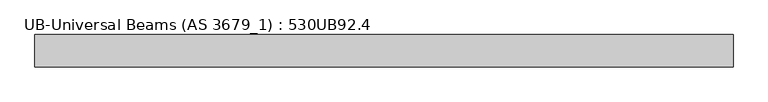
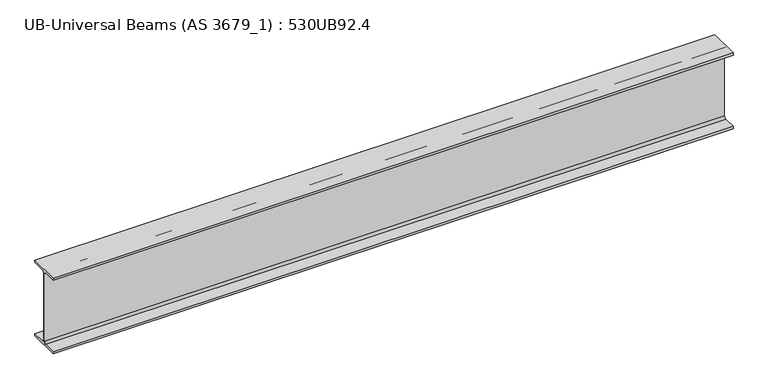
"""IFC4 building model written with IfcOpenShell, lengths in millimetres: beam geometry, UB-Universal Beams (AS 3679_1) : 530UB92.4."""

from ifc_helpers import new_model, si_unit, point, frame, frame_2d, origin, place, context, project, spatial, polyline, circle_curve, trimmed, segment, composite_curve, outline, extrude, source, transform, mapped, element, save


def ub_universal_beams_as_3679_1_530ub92_4_67ad7e9f(model_context):
    return source(origin(), model_context, "Body", "SweptSolid", [
        extrude(outline(composite_curve([segment(polyline([(104.5, -250.9), (104.5, -266.5), (-104.5, -266.5), (-104.5, -250.9), (-19.1, -250.9)]), True, "CONTINUOUS"), segment(trimmed(circle_curve(frame_2d((-19.1, -236.9)), 14.0), [point((-19.1, -250.9))], [point((-5.1, -236.9))], True, "CARTESIAN"), True, "CONTINUOUS"), segment(polyline([(-5.1, -236.9), (-5.1, 236.9)]), True, "CONTINUOUS"), segment(trimmed(circle_curve(frame_2d((-19.1, 236.9)), 14.0), [point((-5.1, 236.9))], [point((-19.1, 250.9))], True, "CARTESIAN"), True, "CONTINUOUS"), segment(polyline([(-19.1, 250.9), (-104.5, 250.9), (-104.5, 266.5), (104.5, 266.5), (104.5, 250.9), (19.1, 250.9)]), True, "CONTINUOUS"), segment(trimmed(circle_curve(frame_2d((19.1, 236.9)), 14.0), [point((19.1, 250.9))], [point((5.1, 236.9))], True, "CARTESIAN"), True, "CONTINUOUS"), segment(polyline([(5.1, 236.9), (5.1, -236.9)]), True, "CONTINUOUS"), segment(trimmed(circle_curve(frame_2d((19.1, -236.9)), 14.0), [point((5.1, -236.9))], [point((19.1, -250.9))], True, "CARTESIAN"), True, "CONTINUOUS"), segment(polyline([(19.1, -250.9), (104.5, -250.9)]), True, "CONTINUOUS")], self_intersect=False)), frame((-2263.3, 0.0, 0.0), z_axis=(1.0, 0.0, 0.0), x_axis=(0.0, 1.0, 0.0)), (0.0, 0.0, 1.0), 4526.6),
    ])


if __name__ == "__main__":
    model = new_model("IFC4")
    model_context = context("Model", 3, world=origin())
    ifc_project = project(units=[si_unit("LENGTHUNIT", "METRE", prefix="MILLI")], contexts=[model_context])
    site = spatial("IfcSite", under=ifc_project)
    building = spatial("IfcBuilding", under=site)
    placement = place(None, origin())
    ub_universal_beams_as_3679_1_530ub92_4_shape = ub_universal_beams_as_3679_1_530ub92_4_67ad7e9f(model_context)
    element("IfcBeam", 1, ObjectType="UB-Universal Beams (AS 3679_1) : 530UB92.4", at=placement, inside=building, context=model_context, shape_type="MappedRepresentation", body=[
        mapped(ub_universal_beams_as_3679_1_530ub92_4_shape, transform((0.0, 0.0, 0.0), x_axis=(1.0, 0.0, 0.0), y_axis=(0.0, 1.0, 0.0), z_axis=(0.0, 0.0, 1.0))),
    ])
    save(model, "model.ifc")
